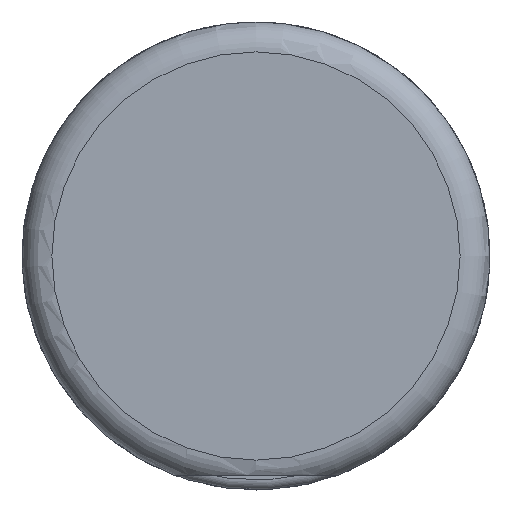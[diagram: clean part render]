
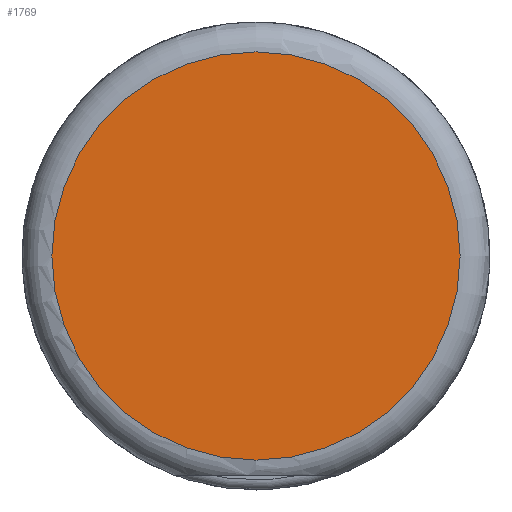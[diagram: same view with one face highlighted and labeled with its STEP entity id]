
A CAD part, front view. The second image highlights one B-rep face of the part: STEP entity #1769.
In plain terms, the highlighted planar face has unit normal (0, -1, 0).
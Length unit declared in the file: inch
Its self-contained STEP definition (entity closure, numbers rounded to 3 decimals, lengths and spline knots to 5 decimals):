
#122 = EDGE_CURVE ( 'NONE', #960, #960, #2187, .T. ) ;
#209 = FACE_OUTER_BOUND ( 'NONE', #2310, .T. ) ;
#310 = CARTESIAN_POINT ( 'NONE',  ( 0., -7.69882, 0.80709 ) ) ;
#317 = PLANE ( 'NONE',  #4157 ) ;
#400 = DIRECTION ( 'NONE',  ( 0., 0., 1. ) ) ;
#960 = VERTEX_POINT ( 'NONE', #310 ) ;
#1218 = DIRECTION ( 'NONE',  ( 0., 1., 0. ) ) ;
#1220 = CARTESIAN_POINT ( 'NONE',  ( 0.9252, -7.69882, 0. ) ) ;
#1245 = AXIS2_PLACEMENT_3D ( 'NONE', #3546, #3539, #3477 ) ;
#1769 = ADVANCED_FACE ( 'NONE', ( #209 ), #317, .F. ) ;
#2187 = CIRCLE ( 'NONE', #1245, 0.80709 ) ;
#2310 = EDGE_LOOP ( 'NONE', ( #4099 ) ) ;
#3477 = DIRECTION ( 'NONE',  ( 0., 0., 1. ) ) ;
#3539 = DIRECTION ( 'NONE',  ( 0., -1., 0. ) ) ;
#3546 = CARTESIAN_POINT ( 'NONE',  ( 0., -7.69882, 0. ) ) ;
#4099 = ORIENTED_EDGE ( 'NONE', *, *, #122, .T. ) ;
#4157 = AXIS2_PLACEMENT_3D ( 'NONE', #1220, #1218, #400 ) ;
